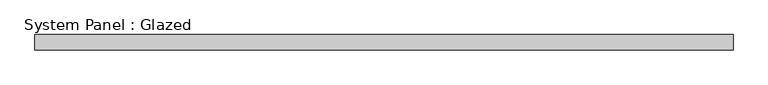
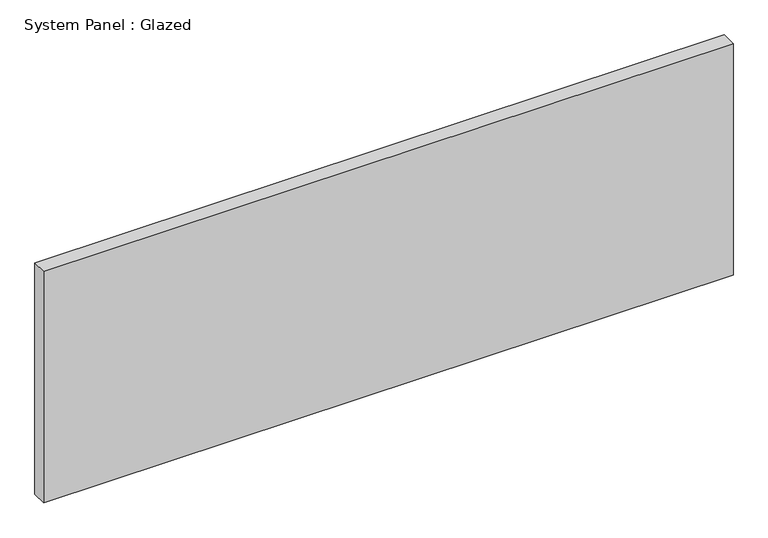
"""IFC4 building model written with IfcOpenShell, lengths in millimetres: plate geometry, System Panel : Glazed."""

from ifc_helpers import new_model, si_unit, origin, origin_with_axes, place, context, project, spatial, polyline, outline, extrude, source, transform, mapped, element, save


def system_panel_glazed_2755e160(model_context):
    return source(origin(), model_context, "Body", "SweptSolid", [
        extrude(outline(polyline([(573.4875, -49.5), (-573.4875, -49.5), (-573.4875, -24.5), (573.4875, -24.5), (573.4875, -49.5)])), origin_with_axes(), (0.0, 0.0, 1.0), 407.2),
    ])


if __name__ == "__main__":
    model = new_model("IFC4")
    model_context = context("Model", 3, world=origin())
    ifc_project = project(units=[si_unit("LENGTHUNIT", "METRE", prefix="MILLI")], contexts=[model_context])
    site = spatial("IfcSite", under=ifc_project)
    building = spatial("IfcBuilding", under=site)
    placement = place(None, origin())
    system_panel_glazed_shape = system_panel_glazed_2755e160(model_context)
    element("IfcPlate", 1, ObjectType="System Panel : Glazed", at=placement, inside=building, context=model_context, shape_type="MappedRepresentation", body=[
        mapped(system_panel_glazed_shape, transform((0.0, 0.0, 0.0), x_axis=(1.0, 0.0, 0.0), y_axis=(0.0, 1.0, 0.0), z_axis=(0.0, 0.0, 1.0))),
    ])
    save(model, "model.ifc")
